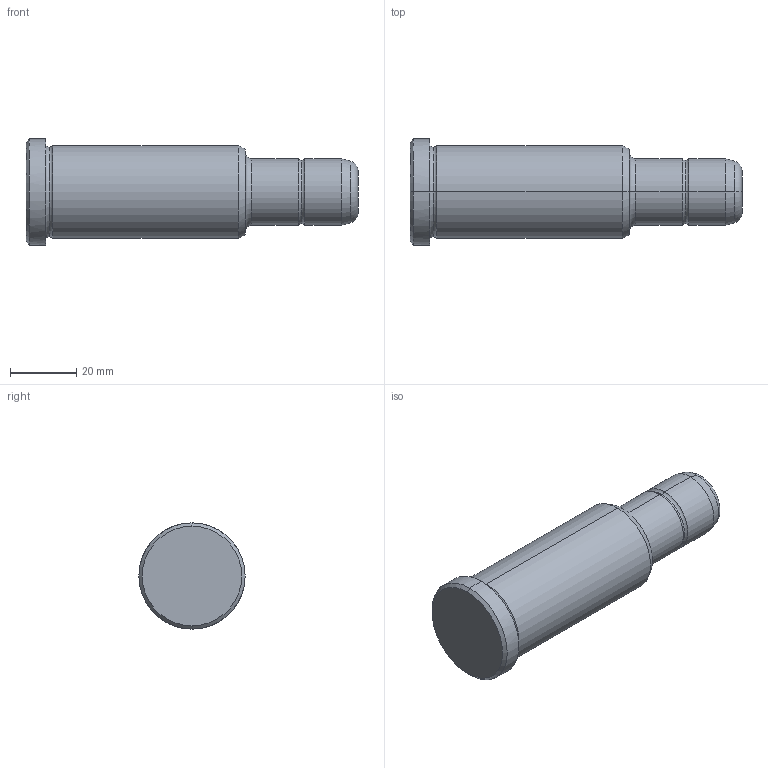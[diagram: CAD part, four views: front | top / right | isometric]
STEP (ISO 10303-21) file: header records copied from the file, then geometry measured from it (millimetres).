
FILE_DESCRIPTION(('CATIA V5 STEP Exchange'),'2;1');
FILE_NAME('C:\Users\Utente\Desktop\IO LAVORO\3D X SITO CF\X SITO\PLASTICA\351\351-20X66X100.stp','2021-08-27T13:17:43+00:00',('none'),('none'),'CATIA Version 5 Release 20 GA (IN-10)','CATIA V5 STEP AP203','none');
FILE_SCHEMA(('CONFIG_CONTROL_DESIGN'));
Length unit declared in the file: millimetre
Products named in the file (1): 351-20X66X100
Bounding box: 100 x 32 x 32 mm (x, y, z)
Volume: 52002.8 mm3; surface area: 9344.7 mm2
Topology: 1 solids, 1 shells, 30 faces, 86 edges, 60 vertices
Faces by surface type: torus 12, cylinder 8, cone 6, plane 4
Entity records: 1112 total; most frequent: CARTESIAN_POINT 289, ORIENTED_EDGE 172, DIRECTION 138, AXIS2_PLACEMENT_3D 95, EDGE_CURVE 86, CIRCLE 64, VERTEX_POINT 60, EDGE_LOOP 32
